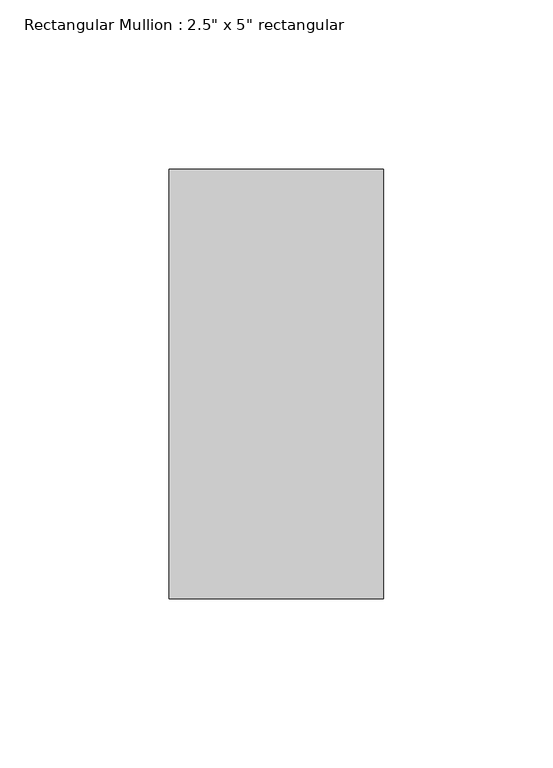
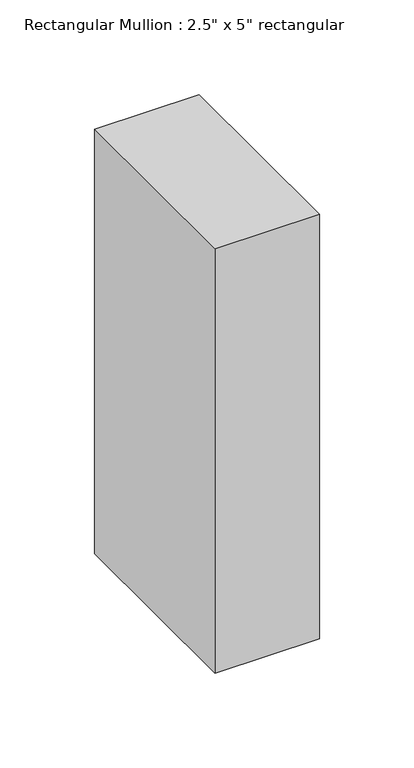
"""IFC4 building model written with IfcOpenShell, lengths in millimetres: member geometry."""

from ifc_helpers import new_model, si_unit, frame, origin, place, context, project, spatial, polyline, outline, extrude, source, transform, mapped, element, save


def member_5d67b9fc(model_context):
    return source(origin(), model_context, "Body", "SweptSolid", [
        extrude(outline(polyline([(31.75, 63.5), (31.75, -63.5), (-31.75, -63.5), (-31.75, 63.5), (31.75, 63.5)])), frame((0.0, 0.0, -273.05), z_axis=(0.0, 0.0, 1.0), x_axis=(1.0, 0.0, 0.0)), (0.0, 0.0, 1.0), 273.05),
    ])


if __name__ == "__main__":
    model = new_model("IFC4")
    model_context = context("Model", 3, world=origin())
    ifc_project = project(units=[si_unit("LENGTHUNIT", "METRE", prefix="MILLI")], contexts=[model_context])
    site = spatial("IfcSite", under=ifc_project)
    building = spatial("IfcBuilding", under=site)
    placement = place(None, origin())
    member_shape = member_5d67b9fc(model_context)
    element("IfcMember", 1, ObjectType="Rectangular Mullion : 2.5\" x 5\" rectangular", at=placement, inside=building, context=model_context, shape_type="MappedRepresentation", body=[
        mapped(member_shape, transform((0.0, 0.0, 0.0), x_axis=(1.0, 0.0, 0.0), y_axis=(0.0, 1.0, 0.0), z_axis=(0.0, 0.0, 1.0))),
    ])
    save(model, "model.ifc")
